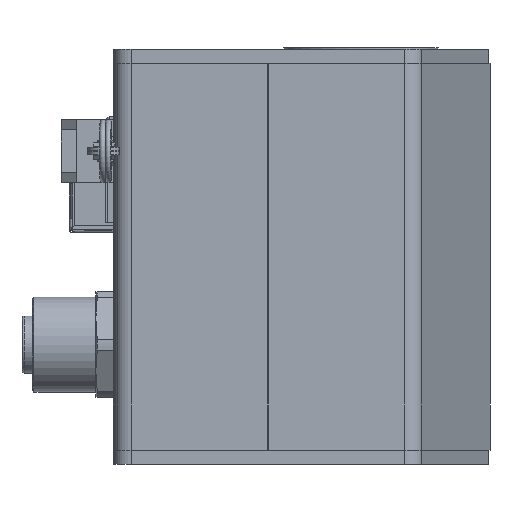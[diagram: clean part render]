
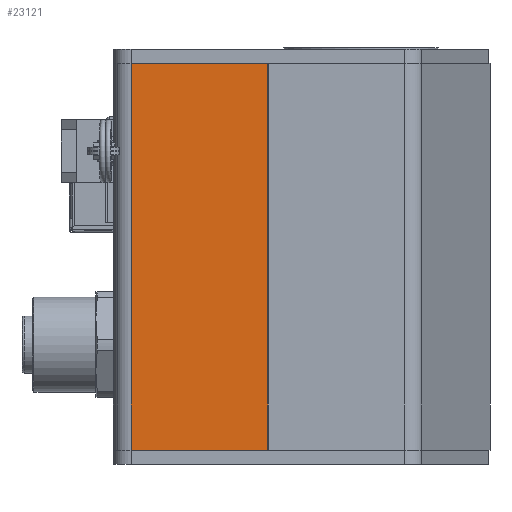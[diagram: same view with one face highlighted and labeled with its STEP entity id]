
A CAD part, left-side view. The second image highlights one B-rep face of the part: STEP entity #23121.
In plain terms, the highlighted planar face has unit normal (-1, 0, 0) as drawn and (1, 0, 0) by its records, which use the part's own axes.
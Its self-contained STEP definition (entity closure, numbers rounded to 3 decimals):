
#264 = DIRECTION ( 'NONE',  ( 0., 1., 0. ) ) ;
#1717 = LINE ( 'NONE', #56843, #93495 ) ;
#3603 = VERTEX_POINT ( 'NONE', #41737 ) ;
#4925 = ORIENTED_EDGE ( 'NONE', *, *, #109794, .T. ) ;
#6365 = EDGE_CURVE ( 'NONE', #63861, #31615, #1717, .T. ) ;
#12644 = LINE ( 'NONE', #144832, #136148 ) ;
#23115 = CARTESIAN_POINT ( 'NONE',  ( 52.5, 2.5, -10. ) ) ;
#23121 = ADVANCED_FACE ( 'NONE', ( #104504 ), #78256, .T. ) ;
#27350 = CARTESIAN_POINT ( 'NONE',  ( 52.5, 2.5, -10. ) ) ;
#31615 = VERTEX_POINT ( 'NONE', #109234 ) ;
#41737 = CARTESIAN_POINT ( 'NONE',  ( 52.5, 2.5, 45. ) ) ;
#51621 = DIRECTION ( 'NONE',  ( 0., 0., 1. ) ) ;
#56843 = CARTESIAN_POINT ( 'NONE',  ( 52.5, 2.5, -10. ) ) ;
#61895 = VERTEX_POINT ( 'NONE', #130105 ) ;
#63861 = VERTEX_POINT ( 'NONE', #23115 ) ;
#68201 = CARTESIAN_POINT ( 'NONE',  ( 52.5, 22.07, -10. ) ) ;
#78256 = PLANE ( 'NONE',  #79801 ) ;
#79801 = AXIS2_PLACEMENT_3D ( 'NONE', #27350, #92221, #264 ) ;
#85119 = ORIENTED_EDGE ( 'NONE', *, *, #6365, .T. ) ;
#91070 = EDGE_CURVE ( 'NONE', #3603, #61895, #12644, .T. ) ;
#92221 = DIRECTION ( 'NONE',  ( 1., 0., 0. ) ) ;
#93495 = VECTOR ( 'NONE', #164491, 1000. ) ;
#102564 = EDGE_LOOP ( 'NONE', ( #4925, #122702, #140271, #85119 ) ) ;
#104504 = FACE_OUTER_BOUND ( 'NONE', #102564, .T. ) ;
#105279 = LINE ( 'NONE', #168274, #128825 ) ;
#106333 = DIRECTION ( 'NONE',  ( 0., 1., 0. ) ) ;
#109234 = CARTESIAN_POINT ( 'NONE',  ( 52.5, 22.07, -10. ) ) ;
#109794 = EDGE_CURVE ( 'NONE', #31615, #61895, #118146, .T. ) ;
#113944 = VECTOR ( 'NONE', #51621, 1000. ) ;
#118146 = LINE ( 'NONE', #68201, #113944 ) ;
#122702 = ORIENTED_EDGE ( 'NONE', *, *, #91070, .F. ) ;
#128825 = VECTOR ( 'NONE', #142871, 1000. ) ;
#130105 = CARTESIAN_POINT ( 'NONE',  ( 52.5, 22.07, 45. ) ) ;
#136148 = VECTOR ( 'NONE', #106333, 1000. ) ;
#140271 = ORIENTED_EDGE ( 'NONE', *, *, #148246, .F. ) ;
#142871 = DIRECTION ( 'NONE',  ( 0., 0., 1. ) ) ;
#144832 = CARTESIAN_POINT ( 'NONE',  ( 52.5, 2.5, 45. ) ) ;
#148246 = EDGE_CURVE ( 'NONE', #63861, #3603, #105279, .T. ) ;
#164491 = DIRECTION ( 'NONE',  ( 0., 1., 0. ) ) ;
#168274 = CARTESIAN_POINT ( 'NONE',  ( 52.5, 2.5, -10. ) ) ;
